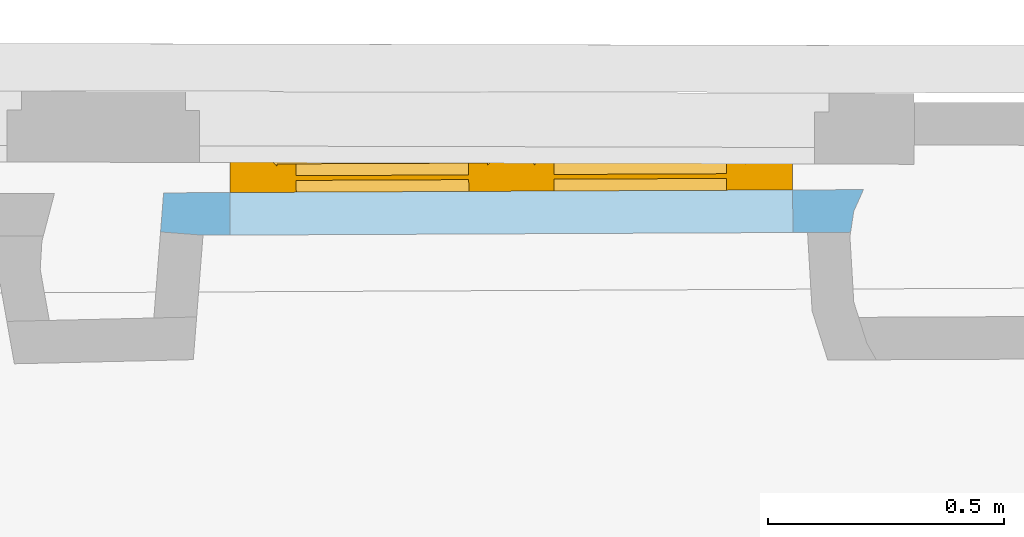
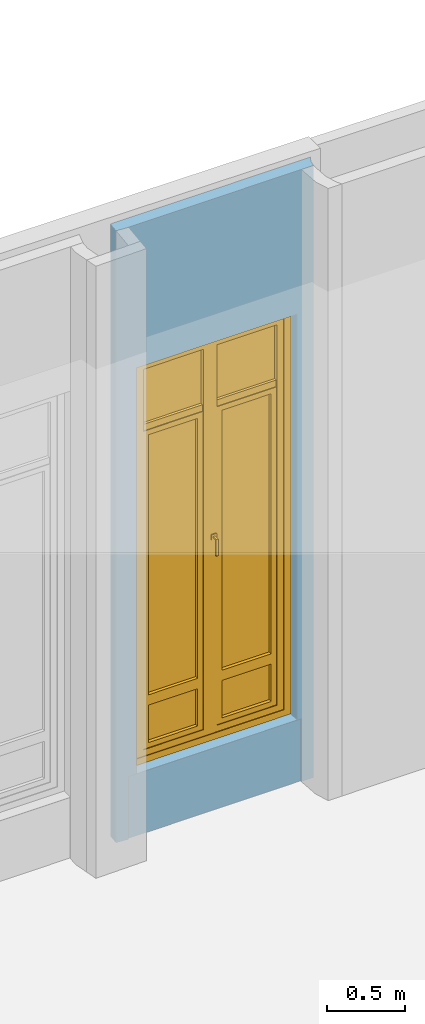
# One storey, part 71 of 97: 1 window, 2 openings, plus 1 element that does not belong to this part.
"""IFC2X3 building model written with IfcOpenShell, lengths in centimetres."""

from ifc_helpers import new_model, entity, si_unit, converted_unit, direction, frame, origin, origin_with_axes, place, context, subcontext, project, spatial, polyline, outline, extrude, faceted_brep, shape, source, transform, mapped, material, material_list, layer, layer_set, layer_usage, type_object, element, fill, save


model = new_model("IFC2X3")

# Units and contexts
model_context = context("Model", 3, precision=0.0001, world=origin(), true_north=direction((0.225632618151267, 0.974212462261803, 0.0)))
body_context = subcontext(model_context, "Body", "Model", "MODEL_VIEW")
footprint_context = subcontext(model_context, "FootPrint", "Model", "MODEL_VIEW")
profile_context = subcontext(model_context, "Profile", "Model", "MODEL_VIEW")
ifc_project = project(units=[si_unit("LENGTHUNIT", "METRE", prefix="CENTI"), si_unit("AREAUNIT", "SQUARE_METRE", prefix="CENTI"), si_unit("VOLUMEUNIT", "CUBIC_METRE", prefix="CENTI"), converted_unit("PLANEANGLEUNIT", "DEGREE", entity("IfcRatioMeasure", 0.0174532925), si_unit("PLANEANGLEUNIT", "RADIAN"), dimensions=[0, 0, 0, 0, 0, 0, 0])], contexts=[model_context])

# Site, building, storey
site_placement = place(None, origin_with_axes())
site = spatial("IfcSite", under=ifc_project, at=site_placement, Name="Default Site", CompositionType="ELEMENT")
building_placement = place(site_placement, origin_with_axes())
building = spatial("IfcBuilding", under=site, at=building_placement, Name="Default Building", CompositionType="ELEMENT")
storey_placement = place(building_placement, origin_with_axes())
storey = spatial("IfcBuildingStorey", under=building, at=storey_placement, Name="Rez-de-chaussée", CompositionType="ELEMENT", Elevation=0.0)

# Wall, openings, window
ifc_material_1 = material(Name="<aucun>")
ifc_layer = layer(ifc_material_1, 9.0)
ifc_layer_set = layer_set([ifc_layer], Name="default")
ifc_layer_usage = layer_usage(ifc_layer_set, "AXIS2", "POSITIVE", -4.5)
wall_type = type_object("IfcWallType", Name="default 90", PredefinedType="NOTDEFINED", material=ifc_layer_set)
wall_placement = place(storey_placement, frame((714.185493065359, 733.519461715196, 0.0128503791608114), z_axis=(0.0, 0.0, 1.0), x_axis=(0.999989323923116, 0.00462082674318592, 0.0)))
wall = element("IfcWallStandardCase", 1, at=wall_placement, inside=storey, type_object=wall_type, material=ifc_layer_usage, Name="Enveloppe 671854", context=body_context, shape_type="SweptSolid", body=[
    extrude(outline(polyline([(-4.82611232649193, -3.7583784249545), (4.14327992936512, -4.49999999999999), (141.070799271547, -4.50000000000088), (141.765305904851, -0.0822108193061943), (143.830860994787, 4.49999999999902), (-4.14327992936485, 4.50000000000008), (-4.82611232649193, -3.7583784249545)])), origin_with_axes(), (0.0, 0.0, 1.0), 477.795358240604),
])
opening_1_placement = place(wall_placement, frame((4.14327992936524, -1.13686837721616e-13, -1.27677382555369e-13), z_axis=(0.0, 0.0, 1.0), x_axis=(-1.0, 6.99527241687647e-15, 0.0)))
cartesian_point_1 = entity("IfcCartesianPoint", [0.0, 8.88178419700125e-14, 49.0])
cartesian_point_2 = entity("IfcCartesianPoint", [-127.799696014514, -4.4999999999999])
element("IfcOpeningElement", 2, at=opening_1_placement, cuts=wall, Name="Baie 23855", ObjectType="Recess", shapes=[
    shape(body_context, "Body", "Brep", [faceted_brep([(2.3462822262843e-05, 24.4999910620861, -4.62480059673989e-10), (-127.799659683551, 24.4999910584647, -4.62480059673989e-10), (-127.799659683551, 24.4999910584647, 49.0000013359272), (2.3462822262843e-05, 24.4999910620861, 49.0000013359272), (2.34634173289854e-05, 3.50000147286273, 49.0000013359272), (2.34634173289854e-05, 3.50000147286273, -4.62480059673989e-10), (2.25110060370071e-05, 3.50000147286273, -4.62480059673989e-10), (-127.799708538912, 3.49997906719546, -4.62480059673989e-10), (-127.799659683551, 24.5000161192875, -4.62480059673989e-10), (-127.799659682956, 3.49997906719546, -4.62480059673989e-10), (-127.799659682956, 3.49997906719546, 49.0000013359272), (-127.799659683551, 24.5000161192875, 49.0000013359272), (-127.799708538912, 3.49997906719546, 49.0000013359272), (2.25110060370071e-05, 3.50000147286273, 49.0000013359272), (2.25110060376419e-05, 3.49997907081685, -4.62480059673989e-10), (2.25110060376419e-05, 3.49997907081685, 49.0000013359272)], [[[0, 1, 2, 3]], [[3, 4, 5, 0]], [[0, 6, 7, 8]], [[8, 9, 10, 11]], [[11, 12, 13, 3]], [[12, 7, 14, 15]]])]),
    shape(profile_context, "Profile", "GeometricCurveSet", [entity("IfcGeometricCurveSet", [entity("IfcPolyline", [cartesian_point_1, entity("IfcCartesianPoint", [0.0, 8.88178419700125e-14, 0.0]), entity("IfcCartesianPoint", [-127.799696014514, 8.88178419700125e-14, 0.0]), entity("IfcCartesianPoint", [-127.799696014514, 8.88178419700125e-14, 49.0]), cartesian_point_1])])]),
    shape(footprint_context, "FootPrint", "GeometricCurveSet", [entity("IfcGeometricCurveSet", [entity("IfcPolyline", [cartesian_point_2, entity("IfcCartesianPoint", [8.88178419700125e-14, -4.49999999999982]), entity("IfcCartesianPoint", [0.0, 4.50000000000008]), entity("IfcCartesianPoint", [-127.799696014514, 4.50000000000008]), cartesian_point_2])])]),
])
opening_2_placement = place(wall_placement, frame((9.90267929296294, -2.27373675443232e-13, 49.1086073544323), z_axis=(0.0, 0.0, 1.0), x_axis=(-1.0, 6.99527241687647e-15, 0.0)))
cartesian_point_3 = entity("IfcCartesianPoint", [0.0, 0.0, 317.0])
cartesian_point_4 = entity("IfcCartesianPoint", [-118.964460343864, -4.4999999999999])
opening_2 = element("IfcOpeningElement", 3, at=opening_2_placement, cuts=wall, Name="4294966460_11", ObjectType="Opening", shapes=[
    shape(body_context, "Body", "SweptSolid", [extrude(outline(polyline([(0.0, 317.0), (0.0, 0.0), (118.964460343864, 0.0), (118.964460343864, 317.0), (0.0, 317.0)])), frame((0.0, -14.5, 0.0), z_axis=(0.0, 1.0, 0.0), x_axis=(-1.0, 0.0, 0.0)), (0.0, 0.0, 1.0), 29.0)]),
    shape(profile_context, "Profile", "GeometricCurveSet", [entity("IfcGeometricCurveSet", [entity("IfcPolyline", [cartesian_point_3, entity("IfcCartesianPoint", [0.0, 0.0, 0.0]), entity("IfcCartesianPoint", [-118.964460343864, 8.88178419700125e-14, 0.0]), entity("IfcCartesianPoint", [-118.964460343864, 8.88178419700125e-14, 317.0]), cartesian_point_3])])]),
    shape(footprint_context, "FootPrint", "GeometricCurveSet", [entity("IfcGeometricCurveSet", [entity("IfcPolyline", [cartesian_point_4, entity("IfcCartesianPoint", [0.0, -4.4999999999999]), entity("IfcCartesianPoint", [-8.88178419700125e-14, 4.49999999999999]), entity("IfcCartesianPoint", [-118.964460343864, 4.50000000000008]), cartesian_point_4])])]),
])
ifc_material_2 = material(Name="Transparent")
ifc_material_3 = material(Name="Blanc trafic")
ifc_material_4 = material(Name="Aluminium satiné")
ifc_material_5 = material(Name="Blanc trafic")
ifc_material_list = material_list([ifc_material_2, ifc_material_3, ifc_material_4, ifc_material_5])
window_style = type_object("IfcWindowStyle", Name="FN[R] 2VB[2V] MM", ConstructionType="NOTDEFINED", OperationType="NOTDEFINED", ParameterTakesPrecedence=False, Sizeable=False, material=ifc_material_list)
shared_shape = source(origin_with_axes(), body_context, "Body", "Brep", [
    faceted_brep([(-54.482227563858, 311.999988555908, -3.99999991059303), (-54.482227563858, 311.999988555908, 3.99999991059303), (-54.482227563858, 5.00000007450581, 3.99999991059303), (-54.482227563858, 5.00000007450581, -3.99999991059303), (-59.4822287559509, 317.000007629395, 3.99999991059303), (-59.4822287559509, 0.0, 3.99999991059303), (-59.4822287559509, 317.000007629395, -3.99999991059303), (-59.4822287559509, 0.0, -3.99999991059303), (54.482227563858, 5.00000007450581, 3.99999991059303), (54.482227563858, 5.00000007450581, -3.99999991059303), (59.4822287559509, 0.0, 3.99999991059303), (59.4822287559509, 0.0, -3.99999991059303), (54.482227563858, 311.999988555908, 3.99999991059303), (54.482227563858, 311.999988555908, -3.99999991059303), (59.4822287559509, 317.000007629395, 3.99999991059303), (59.4822287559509, 317.000007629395, -3.99999991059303)], [[[0, 1, 2, 3]], [[1, 4, 5, 2]], [[4, 6, 7, 5]], [[6, 0, 3, 7]], [[3, 2, 8, 9]], [[2, 5, 10, 8]], [[5, 7, 11, 10]], [[7, 3, 9, 11]], [[9, 8, 12, 13]], [[8, 10, 14, 12]], [[10, 11, 15, 14]], [[11, 9, 13, 15]], [[13, 12, 1, 0]], [[12, 14, 4, 1]], [[14, 15, 6, 4]], [[15, 13, 0, 6]]]),
    faceted_brep([(-50.4822313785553, 307.999992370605, -3.50000001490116), (-49.4822303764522, 306.99999332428, -2.49999901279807), (-49.4822303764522, 10.0000001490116, -2.49999901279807), (-50.4822313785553, 9.00000035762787, -3.50000001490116), (-49.4822293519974, 306.99999332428, -2.5000000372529), (-49.4822293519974, 306.99999332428, 3.50000001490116), (-49.4822293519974, 10.0000001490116, 3.50000001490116), (-49.4822293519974, 10.0000001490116, -2.5000000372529), (-54.482227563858, 311.999988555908, 3.50000001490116), (-54.482227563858, 5.00000007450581, 3.50000001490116), (-54.482227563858, 311.999988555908, -3.50000001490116), (-54.482227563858, 5.00000007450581, -3.50000001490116), (-49.4822293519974, 10.0000002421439, -2.50000013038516), (-5.00000007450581, 10.0000002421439, -2.50000013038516), (-3.99999991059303, 9.00000035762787, -3.50000001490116), (-5.00000007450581, 10.0000001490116, 3.50000001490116), (-5.00000007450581, 10.0000001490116, -2.5000000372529), (3.33066907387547e-14, 5.00000007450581, 3.50000001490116), (3.33066907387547e-14, 5.00000007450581, -3.50000001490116), (-4.99999998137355, 10.0000001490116, -2.49999994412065), (-4.99999998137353, 306.99999332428, -2.49999994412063), (-3.99999991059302, 307.999992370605, -3.50000001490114), (-5.00000007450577, 306.99999332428, 3.50000001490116), (-5.00000007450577, 306.99999332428, -2.5000000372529), (5.55111512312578e-14, 311.999988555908, 3.50000001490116), (-5.00000007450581, 306.99999332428, 3.50000001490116), (5.55111495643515e-14, 311.999988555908, -3.50000001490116), (5.55111495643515e-14, 311.999988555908, 3.50000001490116), (-3.99999991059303, 307.999992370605, -3.50000001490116), (5.55111512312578e-14, 311.999988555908, -3.50000001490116), (-5.00000007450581, 306.999992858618, -2.5000005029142), (-49.4822293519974, 306.999992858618, -2.5000005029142), (-5.00000007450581, 306.99999332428, -2.5000000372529)], [[[0, 1, 2, 3]], [[4, 5, 6, 7]], [[5, 8, 9, 6]], [[8, 10, 11, 9]], [[10, 0, 3, 11]], [[3, 12, 13, 14]], [[7, 6, 15, 16]], [[6, 9, 17, 15]], [[9, 11, 18, 17]], [[11, 3, 14, 18]], [[14, 19, 20, 21]], [[16, 15, 22, 23]], [[15, 17, 24, 25]], [[17, 18, 26, 27]], [[18, 14, 28, 29]], [[28, 30, 31, 0]], [[32, 25, 5, 4]], [[25, 24, 8, 5]], [[24, 29, 10, 8]], [[29, 28, 0, 10]]]),
    faceted_brep([(-5.00000007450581, 306.99999332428, -0.499999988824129), (-5.00000007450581, 263.199996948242, -0.499999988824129), (-49.4822293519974, 263.199996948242, -0.499999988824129), (-49.4822293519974, 306.99999332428, -0.499999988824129), (-49.4822293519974, 306.99999332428, 0.499999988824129), (-49.4822293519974, 263.199996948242, 0.499999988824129), (-5.00000007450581, 263.199996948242, 0.499999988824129), (-5.00000007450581, 306.99999332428, 0.499999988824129), (-5.0000000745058, 306.99999332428, -0.499999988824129), (-5.0000000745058, 306.99999332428, 0.499999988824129)], [[[0, 1, 2, 3]], [[4, 5, 6, 7]], [[3, 2, 5, 4]], [[2, 1, 6, 5]], [[1, 8, 9, 6]], [[0, 3, 4, 7]]]),
    faceted_brep([(-5.00000007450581, 258.200001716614, 2.5000000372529), (-5.00000007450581, 258.200001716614, -2.5000000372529), (-5.00000007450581, 263.199996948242, -2.5000000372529), (-5.00000007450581, 263.199996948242, 2.5000000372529), (-49.4822293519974, 263.199996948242, 2.5000000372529), (-49.4822293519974, 263.199996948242, -2.5000000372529), (-49.4822293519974, 258.200001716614, -2.5000000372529), (-49.4822293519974, 258.200001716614, 2.5000000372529)], [[[0, 1, 2, 3]], [[4, 5, 6, 7]], [[3, 2, 5, 4]], [[2, 1, 6, 5]], [[1, 0, 7, 6]], [[0, 3, 4, 7]]]),
    faceted_brep([(-45.4822301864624, 254.200005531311, -2.99999993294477), (-45.4822301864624, 254.200005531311, 2.99999993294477), (-45.4822301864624, 51.230001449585, 2.99999993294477), (-45.4822301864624, 51.230001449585, -2.99999993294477), (-49.4822293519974, 258.200001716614, 2.99999993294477), (-49.4822293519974, 47.2299993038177, 2.99999993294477), (-49.4822293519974, 258.200001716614, -2.99999993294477), (-49.4822293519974, 47.2299993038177, -2.99999993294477), (-9.00000035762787, 51.230001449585, 2.99999993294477), (-9.00000035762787, 51.230001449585, -2.99999993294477), (-5.00000007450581, 47.2299993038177, 2.99999993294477), (-5.00000007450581, 47.2299993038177, -2.99999993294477), (-9.00000035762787, 254.200005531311, 2.99999993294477), (-9.00000035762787, 254.200005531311, -2.99999993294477), (-5.00000007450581, 258.200001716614, 2.99999993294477), (-5.00000007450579, 258.200001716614, -2.99999993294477), (-5.00000007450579, 258.200001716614, 2.99999993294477), (-5.00000007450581, 258.200001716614, -2.99999993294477)], [[[0, 1, 2, 3]], [[1, 4, 5, 2]], [[4, 6, 7, 5]], [[6, 0, 3, 7]], [[3, 2, 8, 9]], [[2, 5, 10, 8]], [[5, 7, 11, 10]], [[7, 3, 9, 11]], [[9, 8, 12, 13]], [[8, 10, 14, 12]], [[10, 11, 15, 16]], [[11, 9, 13, 17]], [[13, 12, 1, 0]], [[12, 14, 4, 1]], [[14, 17, 6, 4]], [[17, 13, 0, 6]]]),
    faceted_brep([(-9.00000035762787, 254.200005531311, -0.499999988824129), (-9.00000035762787, 51.230001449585, -0.499999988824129), (-45.4822301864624, 51.230001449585, -0.499999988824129), (-45.4822301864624, 254.200005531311, -0.499999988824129), (-45.4822301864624, 254.200005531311, 0.499999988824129), (-45.4822301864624, 51.230001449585, 0.499999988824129), (-9.00000035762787, 51.230001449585, 0.499999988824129), (-9.00000035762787, 254.200005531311, 0.499999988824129), (-9.00000035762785, 254.200005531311, -0.499999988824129), (-9.00000035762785, 254.200005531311, 0.499999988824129)], [[[0, 1, 2, 3]], [[4, 5, 6, 7]], [[3, 2, 5, 4]], [[2, 1, 6, 5]], [[1, 8, 9, 6]], [[0, 3, 4, 7]]]),
    faceted_brep([(-45.4822301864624, 43.2300001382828, -2.99999993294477), (-45.4822301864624, 43.2300001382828, 2.99999993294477), (-45.4822301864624, 14.0000000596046, 2.99999993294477), (-45.4822301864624, 14.0000000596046, -2.99999993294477), (-49.4822293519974, 47.2299993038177, 2.99999993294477), (-49.4822293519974, 10.0000001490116, 2.99999993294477), (-49.4822293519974, 47.2299993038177, -2.99999993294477), (-49.4822293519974, 10.0000001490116, -2.99999993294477), (-9.00000035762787, 14.0000000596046, 2.99999993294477), (-9.00000035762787, 14.0000000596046, -2.99999993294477), (-5.00000007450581, 10.0000001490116, 2.99999993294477), (-5.00000007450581, 10.0000001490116, -2.99999993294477), (-9.00000035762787, 43.2300001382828, 2.99999993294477), (-9.00000035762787, 43.2300001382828, -2.99999993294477), (-5.00000007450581, 47.2299993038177, 2.99999993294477), (-5.00000007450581, 47.2299993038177, -2.99999993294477)], [[[0, 1, 2, 3]], [[1, 4, 5, 2]], [[4, 6, 7, 5]], [[6, 0, 3, 7]], [[3, 2, 8, 9]], [[2, 5, 10, 8]], [[5, 7, 11, 10]], [[7, 3, 9, 11]], [[9, 8, 12, 13]], [[8, 10, 14, 12]], [[10, 11, 15, 14]], [[11, 9, 13, 15]], [[13, 12, 1, 0]], [[12, 14, 4, 1]], [[14, 15, 6, 4]], [[15, 13, 0, 6]]]),
    faceted_brep([(-9.00000035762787, 43.2300001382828, -0.499999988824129), (-9.00000035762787, 14.0000000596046, -0.499999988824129), (-45.4822301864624, 14.0000000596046, -0.499999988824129), (-45.4822301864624, 43.2300001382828, -0.499999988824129), (-45.4822301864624, 43.2300001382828, 0.499999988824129), (-45.4822301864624, 14.0000000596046, 0.499999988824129), (-9.00000035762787, 14.0000000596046, 0.499999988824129), (-9.00000035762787, 43.2300001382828, 0.499999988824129)], [[[0, 1, 2, 3]], [[4, 5, 6, 7]], [[3, 2, 5, 4]], [[2, 1, 6, 5]], [[1, 0, 7, 6]], [[0, 3, 4, 7]]]),
    faceted_brep([(3.99999991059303, 307.999992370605, -3.50000001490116), (4.99999998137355, 306.99999332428, -2.49999994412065), (4.99999998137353, 10.0000001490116, -2.49999994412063), (3.99999991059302, 9.00000035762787, -3.50000001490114), (5.00000007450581, 306.99999332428, -2.5000000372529), (5.00000007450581, 306.99999332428, 3.50000001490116), (5.00000007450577, 10.0000001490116, 3.50000001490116), (5.00000007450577, 10.0000001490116, -2.5000000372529), (5.55111512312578e-14, 311.999988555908, 3.50000001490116), (3.33066907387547e-14, 5.00000007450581, 3.50000001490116), (5.00000007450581, 10.0000001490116, 3.50000001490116), (5.55111512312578e-14, 311.999988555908, -3.50000001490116), (3.3306692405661e-14, 5.00000007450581, -3.50000001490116), (3.3306692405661e-14, 5.00000007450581, 3.50000001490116), (3.99999991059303, 9.00000035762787, -3.50000001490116), (3.33066907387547e-14, 5.00000007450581, -3.50000001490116), (5.00000007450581, 10.0000002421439, -2.50000013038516), (49.4822293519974, 10.0000002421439, -2.50000013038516), (50.4822313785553, 9.00000035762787, -3.50000001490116), (5.00000007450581, 10.0000001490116, -2.5000000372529), (49.4822293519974, 10.0000001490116, 3.50000001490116), (49.4822293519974, 10.0000001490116, -2.5000000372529), (54.482227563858, 5.00000007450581, 3.50000001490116), (54.482227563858, 5.00000007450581, -3.50000001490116), (49.4822303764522, 10.0000001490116, -2.49999901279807), (49.4822303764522, 306.99999332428, -2.49999901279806), (50.4822313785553, 307.999992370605, -3.50000001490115), (49.4822293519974, 306.99999332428, 3.50000001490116), (49.4822293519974, 306.99999332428, -2.5000000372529), (54.482227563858, 311.999988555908, 3.50000001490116), (54.482227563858, 311.999988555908, -3.50000001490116), (50.4822313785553, 307.999992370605, -3.50000001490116), (49.4822293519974, 306.999992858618, -2.5000005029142), (5.00000007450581, 306.999992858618, -2.50000050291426), (3.99999991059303, 307.999992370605, -3.50000001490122)], [[[0, 1, 2, 3]], [[4, 5, 6, 7]], [[5, 8, 9, 10]], [[8, 11, 12, 13]], [[11, 0, 14, 15]], [[14, 16, 17, 18]], [[19, 10, 20, 21]], [[10, 9, 22, 20]], [[9, 15, 23, 22]], [[15, 14, 18, 23]], [[18, 24, 25, 26]], [[21, 20, 27, 28]], [[20, 22, 29, 27]], [[22, 23, 30, 29]], [[23, 18, 31, 30]], [[31, 32, 33, 34]], [[28, 27, 5, 4]], [[27, 29, 8, 5]], [[29, 30, 11, 8]], [[30, 31, 0, 11]]]),
    faceted_brep([(4.50000017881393, 160.500001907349, 3.50000001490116), (4.50000017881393, 156.500005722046, 3.50000001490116), (0.499999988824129, 156.500005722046, 3.50000001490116), (0.499999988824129, 160.500001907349, 3.50000001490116), (0.499999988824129, 160.500001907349, 4.30000014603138), (0.499999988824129, 156.500005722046, 4.30000014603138), (4.50000017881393, 156.500005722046, 4.30000014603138), (4.50000017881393, 160.500001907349, 4.30000014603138)], [[[0, 1, 2, 3]], [[4, 5, 6, 7]], [[3, 2, 5, 4]], [[2, 1, 6, 5]], [[1, 0, 7, 6]], [[0, 3, 4, 7]]]),
    faceted_brep([(3.24999988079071, 159.00000333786, 4.30000014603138), (3.24999988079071, 158.000004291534, 4.30000014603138), (1.75000000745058, 158.000004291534, 4.30000014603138), (1.75000000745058, 159.00000333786, 4.30000014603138), (1.75000000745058, 159.00000333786, 8.29999968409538), (1.75000000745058, 158.000003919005, 7.30000026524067), (3.24999988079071, 158.000003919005, 7.30000026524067), (3.24999988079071, 159.00000333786, 8.29999968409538), (1.75000000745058, 158.000004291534, 7.29999989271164), (3.24999988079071, 158.000004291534, 7.29999989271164)], [[[0, 1, 2, 3]], [[4, 5, 6, 7]], [[3, 2, 8, 4]], [[2, 1, 9, 8]], [[1, 0, 7, 9]], [[0, 3, 4, 7]]]),
    faceted_brep([(3.24999988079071, 159.00000333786, 8.29999968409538), (3.24999988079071, 158.000003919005, 7.30000026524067), (1.75000000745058, 158.000003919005, 7.30000026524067), (1.75000000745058, 159.00000333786, 8.29999968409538), (1.75000000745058, 146.000003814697, 8.29999968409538), (1.75000000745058, 146.000003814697, 7.29999989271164), (3.24999988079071, 146.000003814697, 7.29999989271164), (3.24999988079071, 146.000003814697, 8.29999968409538), (1.75000000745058, 158.000004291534, 7.29999989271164), (3.24999988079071, 158.000004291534, 7.29999989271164)], [[[0, 1, 2, 3]], [[4, 5, 6, 7]], [[3, 8, 5, 4]], [[8, 9, 6, 5]], [[9, 0, 7, 6]], [[0, 3, 4, 7]]]),
    faceted_brep([(49.4822293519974, 306.99999332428, -0.499999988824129), (49.4822293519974, 263.199996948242, -0.499999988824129), (5.00000007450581, 263.199996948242, -0.499999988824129), (5.00000007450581, 306.99999332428, -0.499999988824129), (5.00000007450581, 306.99999332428, 0.499999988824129), (5.00000007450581, 263.199996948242, 0.499999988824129), (49.4822293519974, 263.199996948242, 0.499999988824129), (49.4822293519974, 306.99999332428, 0.499999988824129), (5.0000000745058, 263.199996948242, -0.499999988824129), (5.0000000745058, 263.199996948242, 0.499999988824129)], [[[0, 1, 2, 3]], [[4, 5, 6, 7]], [[3, 8, 9, 4]], [[2, 1, 6, 5]], [[1, 0, 7, 6]], [[0, 3, 4, 7]]]),
    faceted_brep([(49.4822293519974, 258.200001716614, 2.5000000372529), (49.4822293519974, 258.200001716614, -2.5000000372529), (49.4822293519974, 263.199996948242, -2.5000000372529), (49.4822293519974, 263.199996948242, 2.5000000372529), (5.00000007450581, 263.199996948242, 2.5000000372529), (5.00000007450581, 263.199996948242, -2.5000000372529), (5.00000007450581, 258.200001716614, -2.5000000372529), (5.00000007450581, 258.200001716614, 2.5000000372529)], [[[0, 1, 2, 3]], [[4, 5, 6, 7]], [[3, 2, 5, 4]], [[2, 1, 6, 5]], [[1, 0, 7, 6]], [[0, 3, 4, 7]]]),
    faceted_brep([(9.00000035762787, 254.200005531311, -2.99999993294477), (9.00000035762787, 254.200005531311, 2.99999993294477), (9.00000035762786, 51.230001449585, 2.99999993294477), (9.00000035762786, 51.230001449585, -2.99999993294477), (5.00000007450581, 258.200001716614, 2.99999993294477), (5.00000007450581, 47.2299993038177, 2.99999993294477), (9.00000035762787, 51.230001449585, 2.99999993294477), (5.00000007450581, 258.200001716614, -2.99999993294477), (5.0000000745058, 47.2299993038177, -2.99999993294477), (5.0000000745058, 47.2299993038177, 2.99999993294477), (9.00000035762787, 51.230001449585, -2.99999993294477), (5.00000007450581, 47.2299993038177, -2.99999993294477), (45.4822301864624, 51.230001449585, 2.99999993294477), (45.4822301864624, 51.230001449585, -2.99999993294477), (49.4822293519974, 47.2299993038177, 2.99999993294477), (49.4822293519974, 47.2299993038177, -2.99999993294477), (45.4822301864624, 254.200005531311, 2.99999993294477), (45.4822301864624, 254.200005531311, -2.99999993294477), (49.4822293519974, 258.200001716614, 2.99999993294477), (49.4822293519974, 258.200001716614, -2.99999993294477)], [[[0, 1, 2, 3]], [[1, 4, 5, 6]], [[4, 7, 8, 9]], [[7, 0, 10, 11]], [[10, 6, 12, 13]], [[6, 5, 14, 12]], [[5, 11, 15, 14]], [[11, 10, 13, 15]], [[13, 12, 16, 17]], [[12, 14, 18, 16]], [[14, 15, 19, 18]], [[15, 13, 17, 19]], [[17, 16, 1, 0]], [[16, 18, 4, 1]], [[18, 19, 7, 4]], [[19, 17, 0, 7]]]),
    faceted_brep([(45.4822301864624, 254.200005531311, -0.499999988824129), (45.4822301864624, 51.230001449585, -0.499999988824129), (9.00000035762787, 51.230001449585, -0.499999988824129), (9.00000035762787, 254.200005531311, -0.499999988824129), (9.00000035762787, 254.200005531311, 0.499999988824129), (9.00000035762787, 51.230001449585, 0.499999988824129), (45.4822301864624, 51.230001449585, 0.499999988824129), (45.4822301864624, 254.200005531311, 0.499999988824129), (9.00000035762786, 51.230001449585, -0.499999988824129), (9.00000035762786, 51.230001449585, 0.499999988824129)], [[[0, 1, 2, 3]], [[4, 5, 6, 7]], [[3, 8, 9, 4]], [[2, 1, 6, 5]], [[1, 0, 7, 6]], [[0, 3, 4, 7]]]),
    faceted_brep([(9.00000035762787, 43.2300001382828, -2.99999993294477), (9.00000035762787, 43.2300001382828, 2.99999993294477), (9.00000035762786, 14.0000000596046, 2.99999993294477), (9.00000035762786, 14.0000000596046, -2.99999993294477), (5.00000007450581, 47.2299993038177, 2.99999993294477), (5.00000007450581, 10.0000001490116, 2.99999993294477), (9.00000035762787, 14.0000000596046, 2.99999993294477), (5.00000007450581, 47.2299993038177, -2.99999993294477), (5.00000007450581, 10.0000001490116, -2.99999993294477), (9.00000035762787, 14.0000000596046, -2.99999993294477), (45.4822301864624, 14.0000000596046, 2.99999993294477), (45.4822301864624, 14.0000000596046, -2.99999993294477), (49.4822293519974, 10.0000001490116, 2.99999993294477), (49.4822293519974, 10.0000001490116, -2.99999993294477), (45.4822301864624, 43.2300001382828, 2.99999993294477), (45.4822301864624, 43.2300001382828, -2.99999993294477), (49.4822293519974, 47.2299993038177, 2.99999993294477), (49.4822293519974, 47.2299993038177, -2.99999993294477)], [[[0, 1, 2, 3]], [[1, 4, 5, 6]], [[4, 7, 8, 5]], [[7, 0, 9, 8]], [[9, 6, 10, 11]], [[6, 5, 12, 10]], [[5, 8, 13, 12]], [[8, 9, 11, 13]], [[11, 10, 14, 15]], [[10, 12, 16, 14]], [[12, 13, 17, 16]], [[13, 11, 15, 17]], [[15, 14, 1, 0]], [[14, 16, 4, 1]], [[16, 17, 7, 4]], [[17, 15, 0, 7]]]),
    faceted_brep([(45.4822301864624, 43.2300001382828, -0.499999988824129), (45.4822301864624, 14.0000000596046, -0.499999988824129), (9.00000035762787, 14.0000000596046, -0.499999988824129), (9.00000035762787, 43.2300001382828, -0.499999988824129), (9.00000035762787, 43.2300001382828, 0.499999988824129), (9.00000035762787, 14.0000000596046, 0.499999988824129), (45.4822301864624, 14.0000000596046, 0.499999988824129), (45.4822301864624, 43.2300001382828, 0.499999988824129), (9.00000035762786, 14.0000000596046, -0.499999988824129), (9.00000035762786, 14.0000000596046, 0.499999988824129)], [[[0, 1, 2, 3]], [[4, 5, 6, 7]], [[3, 8, 9, 4]], [[2, 1, 6, 5]], [[1, 0, 7, 6]], [[0, 3, 4, 7]]]),
])
window_placement = place(opening_2_placement, frame((-118.964460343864, -11.5, 0.0), z_axis=(0.0, 0.0, 1.0), x_axis=(1.0, 0.0, 0.0)))
window = element("IfcWindow", 4, at=window_placement, inside=storey, type_object=window_style, material=ifc_material_list, Name="Fenêtre 23841", OverallHeight=317.0, OverallWidth=118.964460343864, context=body_context, shape_type="MappedRepresentation", body=[
    mapped(shared_shape, transform((59.4822301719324, 4.00000000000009, -5.55111512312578e-15), x_axis=(-1.0, 0.0, 0.0), y_axis=(0.0, 0.0, 1.0), z_axis=(0.0, 1.0, 0.0), scale=1.0, scale2=1.0, scale3=1.0, uniform=False)),
])
fill(opening_2, window)

save(model, "model.ifc")
